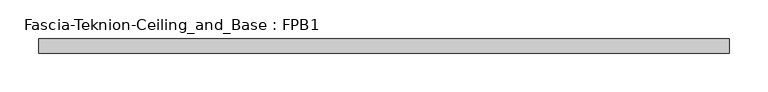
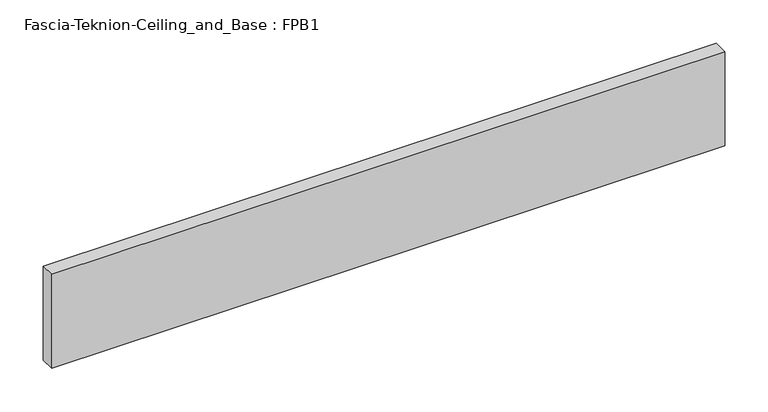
"""IFC4 building model written with IfcOpenShell, lengths in millimetres: proxy geometry, Fascia-Teknion-Ceiling_and_Base : FPB1."""

from ifc_helpers import new_model, si_unit, origin, origin_with_axes, place, context, project, spatial, polyline, outline, extrude, source, transform, mapped, element, save


def fascia_teknion_ceiling_and_base_fpb1_33541465(model_context):
    return source(origin(), model_context, "Body", "SweptSolid", [
        extrude(outline(polyline([(447.0300781, 0.0), (-447.0300781, 0.0), (-447.0300781, 19.05), (447.0300781, 19.05), (447.0300781, 0.0)])), origin_with_axes(), (0.0, 0.0, 1.0), 132.08),
    ])


if __name__ == "__main__":
    model = new_model("IFC4")
    model_context = context("Model", 3, world=origin())
    ifc_project = project(units=[si_unit("LENGTHUNIT", "METRE", prefix="MILLI")], contexts=[model_context])
    site = spatial("IfcSite", under=ifc_project)
    building = spatial("IfcBuilding", under=site)
    placement = place(None, origin())
    fascia_teknion_ceiling_and_base_fpb1_shape = fascia_teknion_ceiling_and_base_fpb1_33541465(model_context)
    element("IfcBuildingElementProxy", 1, Name="Fascia-Teknion-Ceiling_and_Base : FPB1", ObjectType="Fascia-Teknion-Ceiling_and_Base : FPB1", at=placement, inside=building, context=model_context, shape_type="MappedRepresentation", body=[
        mapped(fascia_teknion_ceiling_and_base_fpb1_shape, transform((0.0, 0.0, 0.0), x_axis=(1.0, 0.0, 0.0), y_axis=(0.0, 1.0, 0.0), z_axis=(0.0, 0.0, 1.0))),
    ])
    save(model, "model.ifc")
